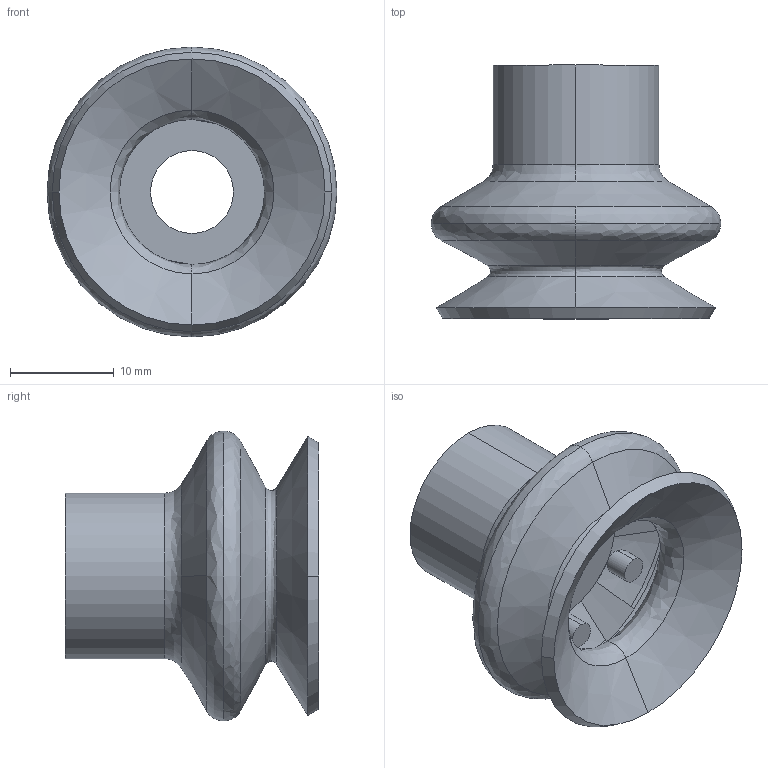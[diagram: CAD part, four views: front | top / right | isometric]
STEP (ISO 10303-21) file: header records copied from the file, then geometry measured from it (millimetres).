
FILE_DESCRIPTION (( 'STEP AP214' ), '1' );
FILE_NAME ('VS2-SA26.STEP', '2019-11-13T08:13:01', ( '微软用户' ), ( '微软中国' ), 'SwSTEP 2.0', 'SolidWorks 2016', '' );
FILE_SCHEMA (( 'AUTOMOTIVE_DESIGN' ));
Length unit declared in the file: millimetre
Products named in the file (1): VS2-SA26
Bounding box: 28 x 24.5 x 28 mm (x, y, z)
Volume: 3899.9 mm3; surface area: 4225.6 mm2
Topology: 1 solids, 1 shells, 52 faces, 152 edges, 88 vertices
Faces by surface type: cylinder 16, cone 14, bspline 14, plane 8
Entity records: 1908 total; most frequent: CARTESIAN_POINT 747, ORIENTED_EDGE 248, DIRECTION 236, EDGE_CURVE 124, AXIS2_PLACEMENT_3D 103, VERTEX_POINT 74, CIRCLE 64, EDGE_LOOP 54
